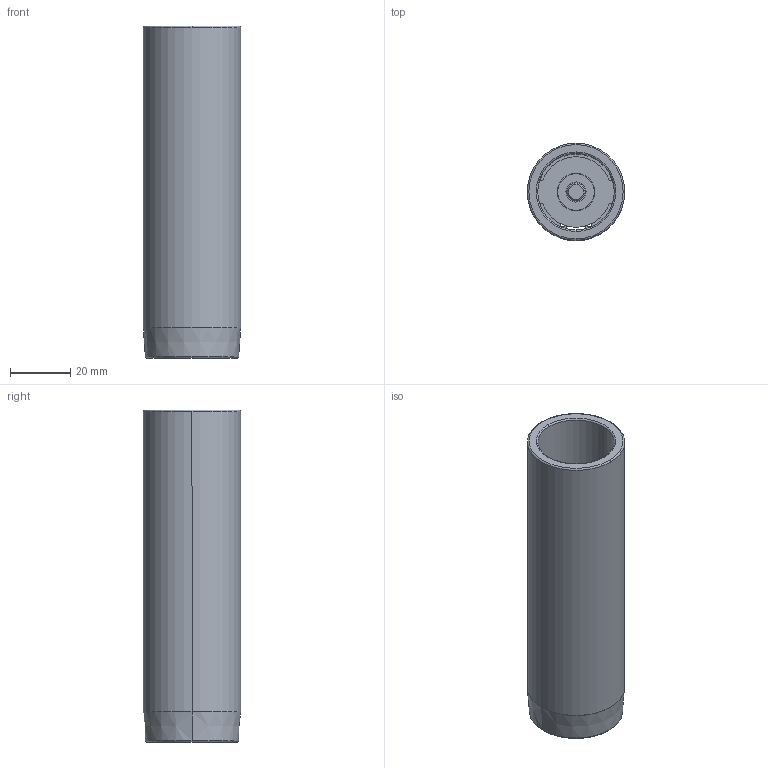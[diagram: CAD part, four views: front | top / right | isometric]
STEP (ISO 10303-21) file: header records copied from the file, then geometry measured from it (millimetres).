
FILE_DESCRIPTION((''),'2;1');
FILE_NAME('C12_025_110.stp','2009-01-28T08:33:03',(''),(''),'Mechanical Desktop 2009','Mechanical Desktop 2009',', , ');
FILE_SCHEMA(('CONFIG_CONTROL_DESIGN'));
Length unit declared in the file: millimetre
Products named in the file (2): Product; blmdl1
Assembly tree (1 placements, depth 2):
  Product
    blmdl1
Bounding box: 32.25 x 32.25 x 110 mm (x, y, z)
Volume: 34886.6 mm3; surface area: 23620.7 mm2
Topology: 5 solids, 5 shells, 79 faces, 200 edges, 134 vertices
Faces by surface type: cylinder 34, plane 29, torus 10, cone 6
Entity records: 2585 total; most frequent: DIRECTION 480, CARTESIAN_POINT 435, ORIENTED_EDGE 400, AXIS2_PLACEMENT_3D 203, EDGE_CURVE 200, VERTEX_POINT 134, CIRCLE 122, EDGE_LOOP 92
